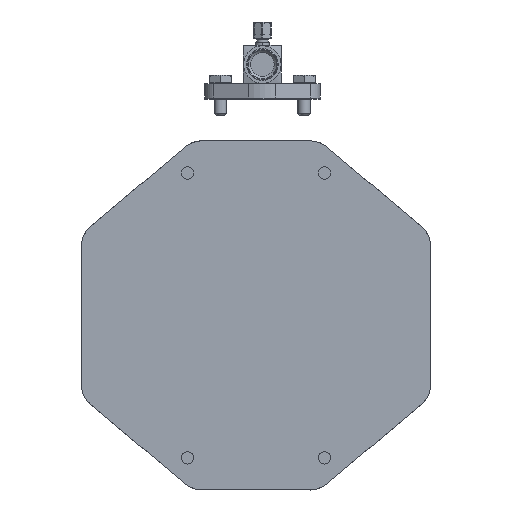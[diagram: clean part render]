
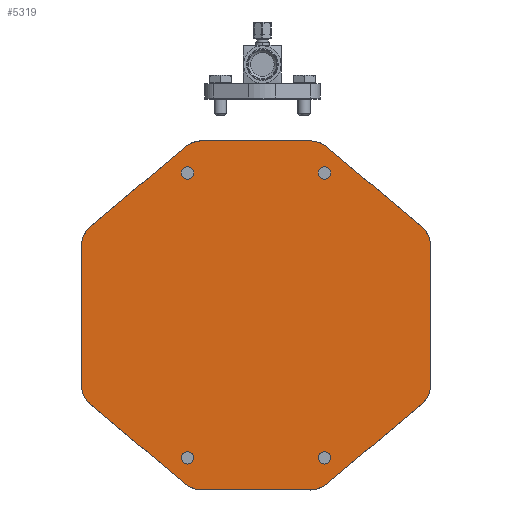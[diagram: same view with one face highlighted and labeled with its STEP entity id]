
A CAD part, left-side view. The second image highlights one B-rep face of the part: STEP entity #5319.
In plain terms, the highlighted planar face has unit normal (-1, 0, 0) as drawn and (0, 0, -1) by its records, which use the part's own axes.
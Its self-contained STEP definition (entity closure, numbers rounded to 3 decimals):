
#5319=ADVANCED_FACE('',(#6035,#6036,#6037,#6038,#6039),#5765,.T.);
#5765=PLANE('',#21230);
#6035=FACE_BOUND('',#7203,.T.);
#6036=FACE_BOUND('',#7204,.T.);
#6037=FACE_BOUND('',#7205,.T.);
#6038=FACE_BOUND('',#7206,.T.);
#6039=FACE_BOUND('',#7207,.T.);
#7203=EDGE_LOOP('',(#13059));
#7204=EDGE_LOOP('',(#13060));
#7205=EDGE_LOOP('',(#13061));
#7206=EDGE_LOOP('',(#13062));
#7207=EDGE_LOOP('',(#13063,#13064,#13065,#13066,#13067,#13068,#13069,#13070,
#13071,#13072,#13073,#13074,#13075,#13076,#13077,#13078));
#7929=CIRCLE('',#20821,20.);
#7930=CIRCLE('',#20823,20.);
#7931=CIRCLE('',#20825,20.);
#7932=CIRCLE('',#20827,20.);
#7933=CIRCLE('',#20829,20.);
#7934=CIRCLE('',#20831,20.);
#7935=CIRCLE('',#20833,20.);
#7936=CIRCLE('',#20835,20.);
#8093=CIRCLE('',#21222,4.866);
#8094=CIRCLE('',#21224,4.866);
#8095=CIRCLE('',#21226,4.866);
#8096=CIRCLE('',#21228,4.866);
#13059=ORIENTED_EDGE('',*,*,#17194,.T.);
#13060=ORIENTED_EDGE('',*,*,#17193,.T.);
#13061=ORIENTED_EDGE('',*,*,#17195,.T.);
#13062=ORIENTED_EDGE('',*,*,#17196,.T.);
#13063=ORIENTED_EDGE('',*,*,#16619,.T.);
#13064=ORIENTED_EDGE('',*,*,#16629,.T.);
#13065=ORIENTED_EDGE('',*,*,#16613,.T.);
#13066=ORIENTED_EDGE('',*,*,#16650,.T.);
#13067=ORIENTED_EDGE('',*,*,#16611,.T.);
#13068=ORIENTED_EDGE('',*,*,#16647,.T.);
#13069=ORIENTED_EDGE('',*,*,#16607,.T.);
#13070=ORIENTED_EDGE('',*,*,#16643,.T.);
#13071=ORIENTED_EDGE('',*,*,#16603,.T.);
#13072=ORIENTED_EDGE('',*,*,#16639,.T.);
#13073=ORIENTED_EDGE('',*,*,#16599,.T.);
#13074=ORIENTED_EDGE('',*,*,#16637,.T.);
#13075=ORIENTED_EDGE('',*,*,#16627,.T.);
#13076=ORIENTED_EDGE('',*,*,#16635,.T.);
#13077=ORIENTED_EDGE('',*,*,#16623,.T.);
#13078=ORIENTED_EDGE('',*,*,#16632,.T.);
#14308=VERTEX_POINT('',#33693);
#14309=VERTEX_POINT('',#33695);
#14312=VERTEX_POINT('',#33705);
#14313=VERTEX_POINT('',#33707);
#14316=VERTEX_POINT('',#33714);
#14317=VERTEX_POINT('',#33716);
#14320=VERTEX_POINT('',#33726);
#14321=VERTEX_POINT('',#33728);
#14322=VERTEX_POINT('',#33732);
#14323=VERTEX_POINT('',#33733);
#14328=VERTEX_POINT('',#33747);
#14329=VERTEX_POINT('',#33749);
#14332=VERTEX_POINT('',#33756);
#14333=VERTEX_POINT('',#33758);
#14336=VERTEX_POINT('',#33768);
#14337=VERTEX_POINT('',#33770);
#14702=VERTEX_POINT('',#36369);
#14703=VERTEX_POINT('',#36372);
#14704=VERTEX_POINT('',#36375);
#14705=VERTEX_POINT('',#36378);
#16599=EDGE_CURVE('',#14309,#14308,#18025,.T.);
#16603=EDGE_CURVE('',#14313,#14312,#18028,.T.);
#16607=EDGE_CURVE('',#14317,#14316,#18032,.T.);
#16611=EDGE_CURVE('',#14321,#14320,#18035,.T.);
#16613=EDGE_CURVE('',#14322,#14323,#18037,.T.);
#16619=EDGE_CURVE('',#14329,#14328,#18042,.T.);
#16623=EDGE_CURVE('',#14333,#14332,#18046,.T.);
#16627=EDGE_CURVE('',#14337,#14336,#18049,.T.);
#16629=EDGE_CURVE('',#14328,#14322,#7929,.T.);
#16632=EDGE_CURVE('',#14332,#14329,#7930,.T.);
#16635=EDGE_CURVE('',#14336,#14333,#7931,.T.);
#16637=EDGE_CURVE('',#14308,#14337,#7932,.T.);
#16639=EDGE_CURVE('',#14312,#14309,#7933,.T.);
#16643=EDGE_CURVE('',#14316,#14313,#7934,.T.);
#16647=EDGE_CURVE('',#14320,#14317,#7935,.T.);
#16650=EDGE_CURVE('',#14323,#14321,#7936,.T.);
#17193=EDGE_CURVE('',#14702,#14702,#8093,.T.);
#17194=EDGE_CURVE('',#14703,#14703,#8094,.T.);
#17195=EDGE_CURVE('',#14704,#14704,#8095,.T.);
#17196=EDGE_CURVE('',#14705,#14705,#8096,.T.);
#18025=LINE('',#33694,#19147);
#18028=LINE('',#33706,#19150);
#18032=LINE('',#33715,#19154);
#18035=LINE('',#33727,#19157);
#18037=LINE('',#33731,#19159);
#18042=LINE('',#33748,#19164);
#18046=LINE('',#33757,#19168);
#18049=LINE('',#33769,#19171);
#19147=VECTOR('',#24806,1.);
#19150=VECTOR('',#24811,1.);
#19154=VECTOR('',#24817,1.);
#19157=VECTOR('',#24822,1.);
#19159=VECTOR('',#24826,1.);
#19164=VECTOR('',#24833,1.);
#19168=VECTOR('',#24839,1.);
#19171=VECTOR('',#24844,1.);
#20821=AXIS2_PLACEMENT_3D('',#33773,#24848,#24849);
#20823=AXIS2_PLACEMENT_3D('',#33786,#24852,#24853);
#20825=AXIS2_PLACEMENT_3D('',#33799,#24856,#24857);
#20827=AXIS2_PLACEMENT_3D('',#33805,#24860,#24861);
#20829=AXIS2_PLACEMENT_3D('',#33811,#24864,#24865);
#20831=AXIS2_PLACEMENT_3D('',#33829,#24868,#24869);
#20833=AXIS2_PLACEMENT_3D('',#33847,#24872,#24873);
#20835=AXIS2_PLACEMENT_3D('',#33858,#24876,#24877);
#21222=AXIS2_PLACEMENT_3D('',#36368,#25918,#25919);
#21224=AXIS2_PLACEMENT_3D('',#36371,#25922,#25923);
#21226=AXIS2_PLACEMENT_3D('',#36374,#25926,#25927);
#21228=AXIS2_PLACEMENT_3D('',#36377,#25930,#25931);
#21230=AXIS2_PLACEMENT_3D('',#36380,#25934,#25935);
#24806=DIRECTION('',(0.766,0.643,0.));
#24811=DIRECTION('',(0.,1.,0.));
#24817=DIRECTION('',(-0.766,0.643,0.));
#24822=DIRECTION('',(-1.,0.,0.));
#24826=DIRECTION('',(-0.766,-0.643,0.));
#24833=DIRECTION('',(0.,-1.,0.));
#24839=DIRECTION('',(0.766,-0.643,0.));
#24844=DIRECTION('',(1.,0.,0.));
#24848=DIRECTION('',(0.,0.,-1.));
#24849=DIRECTION('',(-1.,0.,0.));
#24852=DIRECTION('',(0.,0.,-1.));
#24853=DIRECTION('',(-1.,0.,0.));
#24856=DIRECTION('',(0.,0.,-1.));
#24857=DIRECTION('',(-1.,0.,0.));
#24860=DIRECTION('',(0.,0.,-1.));
#24861=DIRECTION('',(-1.,0.,0.));
#24864=DIRECTION('',(0.,0.,-1.));
#24865=DIRECTION('',(-1.,0.,0.));
#24868=DIRECTION('',(0.,0.,-1.));
#24869=DIRECTION('',(-1.,0.,0.));
#24872=DIRECTION('',(0.,0.,-1.));
#24873=DIRECTION('',(-1.,0.,0.));
#24876=DIRECTION('',(0.,0.,-1.));
#24877=DIRECTION('',(-1.,0.,0.));
#25918=DIRECTION('',(0.,0.,1.));
#25919=DIRECTION('',(-1.,0.,0.));
#25922=DIRECTION('',(0.,0.,1.));
#25923=DIRECTION('',(-1.,0.,0.));
#25926=DIRECTION('',(0.,0.,1.));
#25927=DIRECTION('',(-1.,0.,0.));
#25930=DIRECTION('',(0.,0.,1.));
#25931=DIRECTION('',(-1.,0.,0.));
#25934=DIRECTION('',(0.,0.,-1.));
#25935=DIRECTION('',(0.,1.,0.));
#33693=CARTESIAN_POINT('',(-8.66,183.231,413.));
#33694=CARTESIAN_POINT('',(-90.581,114.417,413.));
#33695=CARTESIAN_POINT('',(-83.445,120.412,413.));
#33705=CARTESIAN_POINT('',(-90.581,105.098,413.));
#33706=CARTESIAN_POINT('',(-90.581,-13.583,413.));
#33707=CARTESIAN_POINT('',(-90.581,-4.263,413.));
#33714=CARTESIAN_POINT('',(-83.445,-19.577,413.));
#33715=CARTESIAN_POINT('',(-3.081,-87.083,413.));
#33716=CARTESIAN_POINT('',(-8.66,-82.397,413.));
#33726=CARTESIAN_POINT('',(4.204,-87.083,413.));
#33727=CARTESIAN_POINT('',(96.919,-87.083,413.));
#33728=CARTESIAN_POINT('',(89.634,-87.083,413.));
#33731=CARTESIAN_POINT('',(184.419,-13.583,413.));
#33732=CARTESIAN_POINT('',(177.283,-19.577,413.));
#33733=CARTESIAN_POINT('',(102.497,-82.397,413.));
#33747=CARTESIAN_POINT('',(184.419,-4.263,413.));
#33748=CARTESIAN_POINT('',(184.419,114.417,413.));
#33749=CARTESIAN_POINT('',(184.419,105.098,413.));
#33756=CARTESIAN_POINT('',(177.283,120.412,413.));
#33757=CARTESIAN_POINT('',(96.919,187.917,413.));
#33758=CARTESIAN_POINT('',(102.497,183.231,413.));
#33768=CARTESIAN_POINT('',(89.634,187.917,413.));
#33769=CARTESIAN_POINT('',(-3.081,187.917,413.));
#33770=CARTESIAN_POINT('',(4.204,187.917,413.));
#33773=CARTESIAN_POINT('',(164.419,-4.263,413.));
#33786=CARTESIAN_POINT('',(164.419,105.098,413.));
#33799=CARTESIAN_POINT('',(89.634,167.917,413.));
#33805=CARTESIAN_POINT('',(4.204,167.917,413.));
#33811=CARTESIAN_POINT('',(-70.581,105.098,413.));
#33829=CARTESIAN_POINT('',(-70.581,-4.263,413.));
#33847=CARTESIAN_POINT('',(4.204,-67.083,413.));
#33858=CARTESIAN_POINT('',(89.634,-67.083,413.));
#36368=CARTESIAN_POINT('',(100.938,162.589,413.));
#36369=CARTESIAN_POINT('',(96.072,162.589,413.));
#36371=CARTESIAN_POINT('',(100.94,-61.752,413.));
#36372=CARTESIAN_POINT('',(96.074,-61.752,413.));
#36374=CARTESIAN_POINT('',(-7.098,-61.753,413.));
#36375=CARTESIAN_POINT('',(-11.964,-61.753,413.));
#36377=CARTESIAN_POINT('',(-7.1,162.588,413.));
#36378=CARTESIAN_POINT('',(-11.966,162.588,413.));
#36380=CARTESIAN_POINT('',(-90.581,-13.583,413.));
